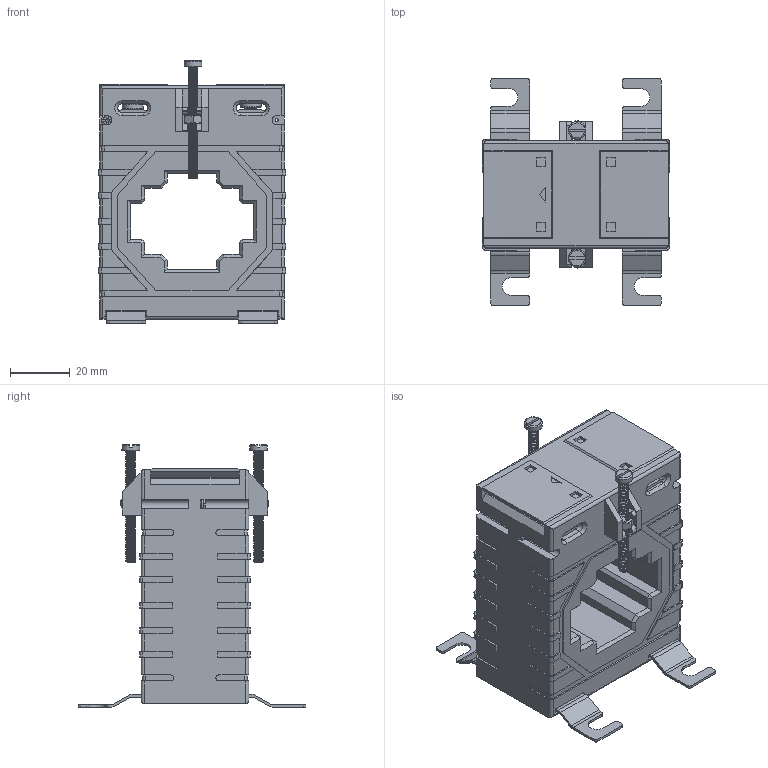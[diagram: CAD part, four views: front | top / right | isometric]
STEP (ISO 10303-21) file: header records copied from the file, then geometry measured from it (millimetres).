
FILE_DESCRIPTION(/* description */ (''),/* implementation_level */ '2;1');
FILE_NAME(/* name */ 'C:\Departamento Mecânica\Catalogo 2019\Extensões de arquivo\KTA 12.stp',/* time_stamp */ '2020-09-11T10:42:35-03:00',/* author */ ('jose.luis'),/* organization */ (''),/* preprocessor_version */ 'ST-DEVELOPER v16.5',/* originating_system */ 'Autodesk Inventor 2017',/* authorisation */ '');
FILE_SCHEMA (('AUTOMOTIVE_DESIGN { 1 0 10303 214 3 1 1 }'));
Products named in the file (17): KTA 12; KTA 12_1; KTA 12_1_1; KTA 12_2; KTA 12_3; KTA 12_4; KTA 12_5; KTA 12_6; KTA 12_7; KTA 12_8; KTA 12_9; KTA 12_10; KTA 12_11; KTA 12_12; KTA 12_13; KBP 52 - Aberto-1_14; KBP 52 - Aberto-1_13
Assembly tree (18 placements, depth 2):
  KTA 12
    KTA 12_1
    KTA 12_1_1
    KTA 12_2
    KTA 12_3
    KTA 12_4
    KTA 12_5
    KTA 12_6
    KTA 12_7
    KTA 12_8
    KTA 12_9
    KTA 12_10
    KTA 12_11
    KTA 12_12
    KTA 12_13
    KBP 52 - Aberto-1_14  x2
    KBP 52 - Aberto-1_13  x2
Bounding box: 62.5 x 75.89 x 87.71 mm (x, y, z)
Volume: 132606.7 mm3; surface area: 37200.8 mm2
Topology: 20 solids, 20 shells, 884 faces, 2375 edges, 1536 vertices
Faces by surface type: plane 609, cylinder 202, cone 44, torus 15, bspline 14
Full cylindrical faces by diameter (mm): 1 x2, 4.032 x1, 4.2 x2, 5.88 x2, 7 x2
Entity records: 46083 total; most frequent: CARTESIAN_POINT 25044, ORIENTED_EDGE 4354, DIRECTION 4229, EDGE_CURVE 2177, LINE 1589, VECTOR 1589, VERTEX_POINT 1418, AXIS2_PLACEMENT_3D 1320
